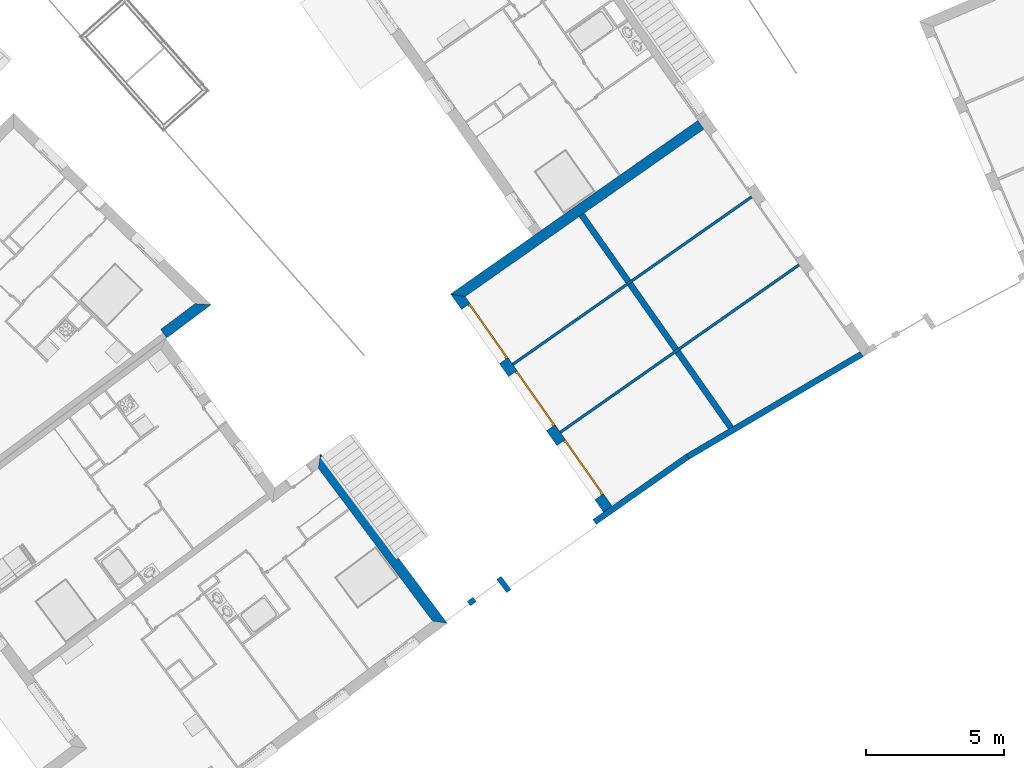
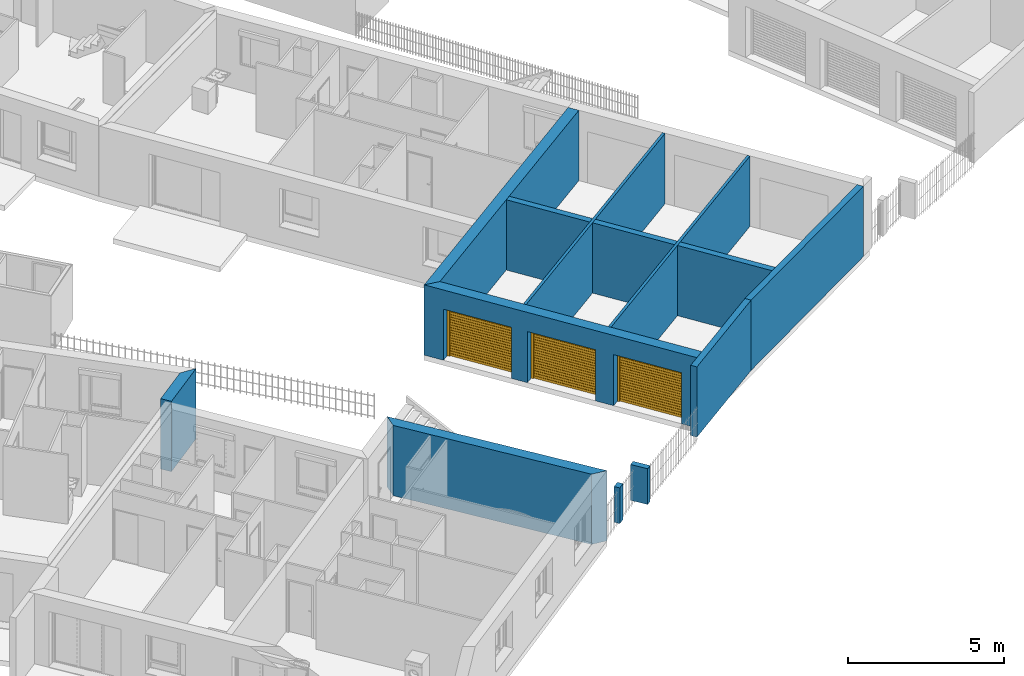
# One storey, part 26 of 195: 11 walls, 3 doors, 3 openings.
"""IFC2X3 building model written with IfcOpenShell, lengths in metres."""

import ifcopenshell
import ifcopenshell.guid

model = None  # the IFC model being written
_history = None  # IfcOwnerHistory: only IFC2X3 demands one
_inside = {}  # id of a spatial element -> (the spatial element, [elements in it])
_under = {}  # id of a project, library or spatial element -> (it, [spatial elements below it])
_declared = {}  # id of a project -> (the project, [libraries it declares])
_typed = {}  # id of a type object -> (the type object, [elements of that type])
_made_of = {}  # id of a material, layer set ... -> (it, [elements and type objects made of it])


def new_model(schema):
    """Start an empty IFC model of exactly this schema.

    Asked for "IFC4X3", IfcOpenShell would pick the latest addendum, in which some entities
    have other attributes; the version numbers below select the first issue.
    IFC2X3 requires an IfcOwnerHistory on every rooted entity: one is made here for all.
    """
    global model, _history
    if schema == "IFC4X3":
        model = ifcopenshell.file(schema_version=(4, 3, 0, 0))
    else:
        model = ifcopenshell.file(schema=schema)
    _inside.clear()
    _under.clear()
    _declared.clear()
    _typed.clear()
    _made_of.clear()
    _history = None
    if model.schema == "IFC2X3":
        org = make("IfcOrganization", Name="unknown")
        user = make(
            "IfcPersonAndOrganization",
            ThePerson=make("IfcPerson", FamilyName="unknown"),
            TheOrganization=org,
        )
        app = make(
            "IfcApplication",
            ApplicationDeveloper=org,
            Version="unknown",
            ApplicationFullName="unknown",
            ApplicationIdentifier="unknown",
        )
        _history = make(
            "IfcOwnerHistory",
            OwningUser=user,
            OwningApplication=app,
            ChangeAction="ADDED",
            CreationDate=0,
        )
    return model


def make(cls, **values):
    """One entity of the class cls with the attributes given. An attribute that is None is left unset."""
    return model.create_entity(
        cls, **{name: value for name, value in values.items() if value is not None}
    )


def entity(cls, *values):
    """Any entity or typed value of the class cls, its attributes in the order of the schema. None: left unset."""
    e = model.create_entity(cls)
    for i, value in enumerate(values):
        if value is not None:
            e[i] = value
    return e


def rooted(cls, **values):
    """An entity with a GlobalId (a new one), such as an element, a storey or a relation."""
    return make(cls, GlobalId=ifcopenshell.guid.new(), OwnerHistory=_history, **values)


def si_unit(unit_type, name, prefix=None):
    """IfcSIUnit, for example si_unit("LENGTHUNIT", "METRE", prefix="MILLI")."""
    return make("IfcSIUnit", UnitType=unit_type, Prefix=prefix, Name=name)


def converted_unit(unit_type, name, factor, base, dimensions=None, offset=None):
    """IfcConversionBasedUnit, such as the inch: factor (a typed value) times the base unit."""
    return make(
        "IfcConversionBasedUnit"
        if offset is None
        else "IfcConversionBasedUnitWithOffset",
        ConversionOffset=offset,
        Dimensions=None
        if dimensions is None
        else entity("IfcDimensionalExponents", *dimensions),
        UnitType=unit_type,
        Name=name,
        ConversionFactor=make(
            "IfcMeasureWithUnit", ValueComponent=factor, UnitComponent=base
        ),
    )


def derived_unit(unit_type, elements):
    """IfcDerivedUnit: a product of units, each with its exponent."""
    return make(
        "IfcDerivedUnit",
        Elements=[
            make("IfcDerivedUnitElement", Unit=unit, Exponent=power)
            for unit, power in elements
        ],
        UnitType=unit_type,
    )


def money_unit(currency):
    """IfcMonetaryUnit."""
    return make("IfcMonetaryUnit", Currency=currency)


def assignment(units):
    """IfcUnitAssignment: the units of a project."""
    return None if units is None else make("IfcUnitAssignment", Units=units)


def point(xyz):
    """IfcCartesianPoint."""
    return None if xyz is None else make("IfcCartesianPoint", Coordinates=xyz)


def direction(xyz):
    """IfcDirection."""
    return None if xyz is None else make("IfcDirection", DirectionRatios=xyz)


def frame(location, z_axis=None, x_axis=None):
    """IfcAxis2Placement3D, a coordinate frame: its origin and axes. An axis left out is left unset."""
    return make(
        "IfcAxis2Placement3D",
        Location=point(location),
        Axis=direction(z_axis),
        RefDirection=direction(x_axis),
    )


def frame_2d(location, x_axis=None):
    """IfcAxis2Placement2D, a coordinate frame in the plane: its origin and x axis."""
    return make(
        "IfcAxis2Placement2D", Location=point(location), RefDirection=direction(x_axis)
    )


def origin_with_axes():
    """The frame at (0, 0, 0) with the z axis (0, 0, 1) and the x axis (1, 0, 0) written out."""
    return frame((0.0, 0.0, 0.0), z_axis=(0.0, 0.0, 1.0), x_axis=(1.0, 0.0, 0.0))


def origin_2d_with_axis():
    """The frame at (0, 0) in the plane with the x axis (1, 0) written out."""
    return frame_2d((0.0, 0.0), x_axis=(1.0, 0.0))


def place(relative_to, where):
    """IfcLocalPlacement: puts the frame where relative to a parent placement (None: the world)."""
    return make(
        "IfcLocalPlacement", PlacementRelTo=relative_to, RelativePlacement=where
    )


def context(
    kind, dimensions, precision=None, world=None, true_north=None, identifier=None
):
    """IfcGeometricRepresentationContext, for example the 3D "Model" context."""
    return make(
        "IfcGeometricRepresentationContext",
        ContextIdentifier=identifier,
        ContextType=kind,
        CoordinateSpaceDimension=dimensions,
        Precision=precision,
        WorldCoordinateSystem=world,
        TrueNorth=true_north,
    )


def subcontext(parent, identifier, kind, view, scale=None):
    """IfcGeometricRepresentationSubContext, for example "Body" below "Model"."""
    return make(
        "IfcGeometricRepresentationSubContext",
        ContextIdentifier=identifier,
        ContextType=kind,
        ParentContext=parent,
        TargetScale=scale,
        TargetView=view,
    )


def project(units=None, contexts=None):
    """IfcProject with its units and contexts."""
    return rooted(
        "IfcProject",
        Name="project",
        RepresentationContexts=contexts,
        UnitsInContext=assignment(units),
    )


def spatial(cls, under=None, at=None, **own):
    """A site, building, storey or space (cls), placed at a placement, below another one or the project."""
    s = rooted(cls, ObjectPlacement=at, **own)
    if under is not None:
        _under.setdefault(under.id(), (under, []))[1].append(s)
    return s


def polyline(points):
    """IfcPolyline through the points."""
    return make("IfcPolyline", Points=[point(p) for p in points])


def profile(cls, at=None, kind="AREA", **sizes):
    """A parametric profile (cls). Its sizes go by their IFC names, for example OverallWidth=200.0."""
    return make(cls, ProfileType=kind, Position=at, **sizes)


def rectangle(**sizes):
    """IfcRectangleProfileDef."""
    return profile("IfcRectangleProfileDef", **sizes)


def outline(outer, holes=None, kind="AREA"):
    """IfcArbitraryClosedProfileDef: a profile drawn as a closed curve; with holes, ...WithVoids."""
    if holes is None:
        return make("IfcArbitraryClosedProfileDef", ProfileType=kind, OuterCurve=outer)
    return make(
        "IfcArbitraryProfileDefWithVoids",
        ProfileType=kind,
        OuterCurve=outer,
        InnerCurves=holes,
    )


def extrude(swept, where, along, depth):
    """IfcExtrudedAreaSolid: the profile swept, set in the frame where, extruded along a direction by depth."""
    return make(
        "IfcExtrudedAreaSolid",
        SweptArea=swept,
        Position=where,
        ExtrudedDirection=direction(along),
        Depth=depth,
    )


def faces_of(points, faces, orient=None, outer=None):
    """IfcFace entities. A face is a list of loops; a loop is a list of indices into points, from 0.

    orient and outer hold one flag for each loop. By default every Orientation is true, the
    first loop of a face is its IfcFaceOuterBound and the others are IfcFaceBound.
    """
    made = []
    for i, loops in enumerate(faces):
        bounds = []
        for j, loop in enumerate(loops):
            is_outer = j == 0 if outer is None else outer[i][j]
            bounds.append(
                make(
                    "IfcFaceOuterBound" if is_outer else "IfcFaceBound",
                    Bound=make("IfcPolyLoop", Polygon=[points[k] for k in loop]),
                    Orientation=True if orient is None else orient[i][j],
                )
            )
        made.append(make("IfcFace", Bounds=bounds))
    return made


def faceted_brep(points, faces, orient=None, outer=None, voids=None):
    """IfcFacetedBrep: a solid bounded by flat faces; with voids (closed shells), ...WithVoids."""
    shared = [point(p) for p in points]
    hull = make("IfcClosedShell", CfsFaces=faces_of(shared, faces, orient, outer))
    if voids is None:
        return make("IfcFacetedBrep", Outer=hull)
    return make(
        "IfcFacetedBrepWithVoids",
        Outer=hull,
        Voids=[
            make(cls, CfsFaces=faces_of(shared, fs, o, b)) for cls, fs, o, b in voids
        ],
    )


def shape(context_of_items, identifier, shape_type, items):
    """IfcShapeRepresentation: the items that make up one representation, for example the "Body"."""
    return make(
        "IfcShapeRepresentation",
        ContextOfItems=context_of_items,
        RepresentationIdentifier=identifier,
        RepresentationType=shape_type,
        Items=items,
    )


def source(mapping_origin, context_of_items, identifier, shape_type, items):
    """IfcRepresentationMap: a shape defined once, which mapped items show again and again."""
    return make(
        "IfcRepresentationMap",
        MappingOrigin=mapping_origin,
        MappedRepresentation=shape(context_of_items, identifier, shape_type, items),
    )


def transform(
    local_origin,
    x_axis=None,
    y_axis=None,
    z_axis=None,
    scale=None,
    scale2=None,
    scale3=None,
    uniform=True,
):
    """IfcCartesianTransformationOperator3D, or its non-uniform kind. x_axis, y_axis, z_axis: its Axis1, 2, 3."""
    if uniform:
        return make(
            "IfcCartesianTransformationOperator3D",
            Axis1=direction(x_axis),
            Axis2=direction(y_axis),
            LocalOrigin=point(local_origin),
            Scale=scale,
            Axis3=direction(z_axis),
        )
    return make(
        "IfcCartesianTransformationOperator3DnonUniform",
        Axis1=direction(x_axis),
        Axis2=direction(y_axis),
        LocalOrigin=point(local_origin),
        Scale=scale,
        Axis3=direction(z_axis),
        Scale2=scale2,
        Scale3=scale3,
    )


def mapped(mapping_source, mapping_target):
    """IfcMappedItem: shows the shape of a source again, moved by a transform."""
    return make(
        "IfcMappedItem", MappingSource=mapping_source, MappingTarget=mapping_target
    )


def material(Name=None, Category=None):
    """IfcMaterial."""
    return make("IfcMaterial", Name=Name, Category=Category)


def layer(
    of_material, thickness, ventilated=None, Name=None, Category=None, Priority=None
):
    """IfcMaterialLayer: one layer of a wall or slab, of a material (None: an air gap)."""
    return make(
        "IfcMaterialLayer",
        Material=of_material,
        LayerThickness=thickness,
        IsVentilated=ventilated,
        Name=Name,
        Category=Category,
        Priority=Priority,
    )


def layer_set(layers, Name=None):
    """IfcMaterialLayerSet."""
    return make("IfcMaterialLayerSet", MaterialLayers=layers, LayerSetName=Name)


def layer_usage(for_layer_set, set_direction, sense, offset, extent=None):
    """IfcMaterialLayerSetUsage: how a layer set lies in its element."""
    return make(
        "IfcMaterialLayerSetUsage",
        ForLayerSet=for_layer_set,
        LayerSetDirection=set_direction,
        DirectionSense=sense,
        OffsetFromReferenceLine=offset,
        ReferenceExtent=extent,
    )


def made_of(thing, what):
    """Note that an element or type object is made of a material, layer set ...; save() writes the relation."""
    if what is not None:
        _made_of.setdefault(what.id(), (what, []))[1].append(thing)
    return thing


def type_object(cls, material=None, **own):
    """A type object (cls), such as IfcWallType, which elements share."""
    return made_of(rooted(cls, **own), material)


def element(
    cls,
    number,
    at=None,
    inside=None,
    cuts=None,
    type_object=None,
    material=None,
    context=None,
    identifier="Body",
    shape_type=None,
    held_by="IfcProductDefinitionShape",
    body=None,
    shapes=None,
    **own,
):
    """One element of the class cls, such as IfcWall. Its Tag is "e" and its number.

    at: its placement. inside: the storey or other place that contains it. cuts: it is an
    opening in that element (IfcRelVoidsElement). A single representation is given by context,
    identifier, shape_type and body (its items); several are given by shapes. held_by: the class
    of the entity that holds the representations. save() writes the other relations.
    """
    e = rooted(cls, Tag="e%d" % number, ObjectPlacement=at, **own)
    if body is not None:
        shapes = [shape(context, identifier, shape_type, body)]
    if shapes is not None:
        e.Representation = make(held_by, Representations=shapes)
    if inside is not None:
        _inside.setdefault(inside.id(), (inside, []))[1].append(e)
    if cuts is not None:
        rooted(
            "IfcRelVoidsElement", RelatingBuildingElement=cuts, RelatedOpeningElement=e
        )
    if type_object is not None:
        _typed.setdefault(type_object.id(), (type_object, []))[1].append(e)
    return made_of(e, material)


def fill(opening, filler):
    """IfcRelFillsElement: the door or window that sits in an opening."""
    return rooted(
        "IfcRelFillsElement",
        RelatingOpeningElement=opening,
        RelatedBuildingElement=filler,
    )


def aggregate(whole, parts):
    """IfcRelAggregates: a whole, such as a stair, and the parts it consists of."""
    return rooted("IfcRelAggregates", RelatingObject=whole, RelatedObjects=parts)


def save(model, path):
    """Write the relations noted so far, then the file.

    IfcRelAggregates (storeys below a building ...), IfcRelContainedInSpatialStructure (elements
    in a storey), IfcRelDefinesByType, IfcRelAssociatesMaterial and IfcRelDeclares: one each for
    every whole, place, type object, material and project.
    """
    for whole, parts in _under.values():
        aggregate(whole, parts)
    for where, things in _inside.values():
        rooted(
            "IfcRelContainedInSpatialStructure",
            RelatedElements=things,
            RelatingStructure=where,
        )
    for kind, things in _typed.values():
        rooted("IfcRelDefinesByType", RelatedObjects=things, RelatingType=kind)
    for what, things in _made_of.values():
        rooted("IfcRelAssociatesMaterial", RelatedObjects=things, RelatingMaterial=what)
    for by, libraries in _declared.values():
        rooted("IfcRelDeclares", RelatingContext=by, RelatedDefinitions=libraries)
    model.write(path)


model = new_model("IFC2X3")

# Units and contexts
model_context = context("Model", 3, precision=1e-05, world=origin_with_axes(), true_north=direction((0.0, 1.0)))
body_context = subcontext(model_context, "Body", "Model", "MODEL_VIEW")
ifc_project = project(units=[si_unit("LENGTHUNIT", "METRE"), si_unit("AREAUNIT", "SQUARE_METRE"), si_unit("VOLUMEUNIT", "CUBIC_METRE"), converted_unit("PLANEANGLEUNIT", "DEGREE", entity("IfcPlaneAngleMeasure", 0.0174532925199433), si_unit("PLANEANGLEUNIT", "RADIAN"), dimensions=[0, 0, 0, 0, 0, 0, 0]), money_unit("CHF"), converted_unit("TIMEUNIT", "Year", entity("IfcTimeMeasure", 31557600.0), si_unit("TIMEUNIT", "SECOND"), dimensions=[0, 0, 1, 0, 0, 0, 0]), si_unit("MASSUNIT", "GRAM", prefix="KILO"), si_unit("THERMODYNAMICTEMPERATUREUNIT", "DEGREE_CELSIUS"), si_unit("LUMINOUSINTENSITYUNIT", "LUMEN"), si_unit("ENERGYUNIT", "JOULE", prefix="MEGA"), derived_unit("THERMALCONDUCTANCEUNIT", [(si_unit("POWERUNIT", "WATT"), 1), (si_unit("LENGTHUNIT", "METRE"), -1), (si_unit("THERMODYNAMICTEMPERATUREUNIT", "KELVIN"), -1)]), derived_unit("SPECIFICHEATCAPACITYUNIT", [(si_unit("ENERGYUNIT", "JOULE"), 1), (si_unit("MASSUNIT", "GRAM", prefix="KILO"), -1), (si_unit("THERMODYNAMICTEMPERATUREUNIT", "KELVIN"), -1)]), derived_unit("MASSDENSITYUNIT", [(si_unit("MASSUNIT", "GRAM", prefix="KILO"), 1), (si_unit("VOLUMEUNIT", "CUBIC_METRE"), -1)])], contexts=[model_context])

# Site, building, storey
site_placement = place(None, origin_with_axes())
site = spatial("IfcSite", under=ifc_project, at=site_placement, Name="Site", CompositionType="ELEMENT")
building_placement = place(site_placement, origin_with_axes())
building = spatial("IfcBuilding", under=site, at=building_placement, Name="Bâtiment", CompositionType="ELEMENT")
storey_placement = place(building_placement, origin_with_axes())
storey = spatial("IfcBuildingStorey", under=building, at=storey_placement, Name="rdc", CompositionType="ELEMENT", Elevation=0.0)

# Walls
ifc_material_1 = material(Name="Parpaing 312445824")
ifc_layer_1 = layer(ifc_material_1, 0.22, ventilated="UNKNOWN")
ifc_material_2 = material(Name="Isolant styromousse 301821074")
ifc_layer_2 = layer(ifc_material_2, 0.16, ventilated="UNKNOWN")
ifc_layer_set_1 = layer_set([ifc_layer_1, ifc_layer_2], Name="isol int 22+16 0836643197")
ifc_layer_usage_1 = layer_usage(ifc_layer_set_1, "AXIS2", "NEGATIVE", 0.0)
wall_type_1 = type_object("IfcWallType", Name="isol int 22+16 0836643197 380", PredefinedType="NOTDEFINED")
wall_1_placement = place(storey_placement, frame((9543.102010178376, -1073.884767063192, 57.7), z_axis=(0.0, 0.0, 1.0), x_axis=(0.5984464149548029, -0.8011628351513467, 0.0)))
element("IfcWallStandardCase", 1, at=wall_1_placement, inside=storey, type_object=wall_type_1, material=ifc_layer_usage_1, Name="Mur-114", context=body_context, shape_type="SweptSolid", body=[
    extrude(outline(polyline([(0.3800000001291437, -0.3799999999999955), (7.289914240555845, -0.3799999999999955), (7.66991424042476, 0.0), (0.0, 0.0), (0.3800000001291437, -0.3799999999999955)])), origin_with_axes(), (0.0, 0.0, 1.0), 2.75),
])
ifc_layer_usage_2 = layer_usage(ifc_layer_set_1, "AXIS2", "NEGATIVE", 0.0)
wall_2_placement = place(storey_placement, frame((9547.809377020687, -1068.11089280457, 57.7), z_axis=(0.0, 0.0, 1.0), x_axis=(0.8187432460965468, 0.5741598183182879, 0.0)))
element("IfcWallStandardCase", 2, at=wall_2_placement, inside=storey, type_object=wall_type_1, material=ifc_layer_usage_2, Name="Mur-113", context=body_context, shape_type="SweptSolid", body=[
    extrude(outline(polyline([(0.3800000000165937, -0.3799999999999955), (10.93448828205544, -0.3799999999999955), (10.9344882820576, 0.0), (0.0, 0.0), (0.3800000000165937, -0.3799999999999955)])), origin_with_axes(), (0.0, 0.0, 1.0), 2.75),
])

# Wall, openings, doors
ifc_layer_usage_3 = layer_usage(ifc_layer_set_1, "AXIS2", "NEGATIVE", 0.0)
wall_3_placement = place(storey_placement, frame((9553.470404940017, -1076.183433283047, 57.7), z_axis=(0.0, 0.0, 1.0), x_axis=(-0.5741598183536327, 0.8187432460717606, 0.0)))
wall_3 = element("IfcWallStandardCase", 3, at=wall_3_placement, inside=storey, type_object=wall_type_1, material=ifc_layer_usage_3, Name="Mur-113", context=body_context, shape_type="SweptSolid", body=[
    extrude(outline(polyline([(0.2200000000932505, -0.3799999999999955), (9.479672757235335, -0.3799999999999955), (9.859672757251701, 0.0), (0.2199999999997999, 0.0), (0.2200000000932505, -0.3799999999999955)])), origin_with_axes(), (0.0, 0.0, 1.0), 2.75),
])
opening_1_placement = place(wall_3_placement, frame((5.008506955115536, 0.0, 0.0), z_axis=(0.0, 0.0, 1.0), x_axis=(1.0, 0.0, 0.0)))
opening_1 = element("IfcOpeningElement", 4, at=opening_1_placement, cuts=wall_3, Name="Por-301", context=body_context, shape_type="SweptSolid", body=[
    extrude(rectangle(XDim=2.400000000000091, YDim=2.0, at=origin_2d_with_axis()), frame((0.0, -0.3799999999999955, 1.0), z_axis=(0.0, 1.0, 0.0), x_axis=(1.0, 0.0, 0.0)), (0.0, 0.0, -1.0), 0.38),
    extrude(rectangle(XDim=2.400000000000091, YDim=2.0, at=origin_2d_with_axis()), frame((0.0, -0.3800000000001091, 1.0), z_axis=(0.0, -1.0, 0.0), x_axis=(1.0, 0.0, 0.0)), (0.0, 0.0, -1.0), 0.38),
])
opening_2_placement = place(wall_3_placement, frame((1.959415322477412, 0.0, 0.0), z_axis=(0.0, 0.0, 1.0), x_axis=(1.0, 0.0, 0.0)))
opening_2 = element("IfcOpeningElement", 5, at=opening_2_placement, cuts=wall_3, Name="Por-301", context=body_context, shape_type="SweptSolid", body=[
    extrude(rectangle(XDim=2.399999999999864, YDim=2.0, at=origin_2d_with_axis()), frame((0.0, -0.3800000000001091, 1.0), z_axis=(0.0, 1.0, 0.0), x_axis=(1.0, 0.0, 0.0)), (0.0, 0.0, -1.0), 0.38),
    extrude(rectangle(XDim=2.399999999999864, YDim=2.0, at=origin_2d_with_axis()), frame((0.0, -0.3800000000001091, 1.0), z_axis=(0.0, -1.0, 0.0), x_axis=(1.0, 0.0, 0.0)), (0.0, 0.0, -1.0), 0.38),
])
opening_3_placement = place(wall_3_placement, frame((7.977047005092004, 0.0, 0.0), z_axis=(0.0, 0.0, 1.0), x_axis=(1.0, 0.0, 0.0)))
opening_3 = element("IfcOpeningElement", 6, at=opening_3_placement, cuts=wall_3, Name="Por-301", context=body_context, shape_type="SweptSolid", body=[
    extrude(rectangle(XDim=2.399999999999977, YDim=2.0, at=origin_2d_with_axis()), frame((0.0, -0.3800000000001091, 1.0), z_axis=(0.0, 1.0, 0.0), x_axis=(1.0, 0.0, 0.0)), (0.0, 0.0, -1.0), 0.38),
    extrude(rectangle(XDim=2.399999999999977, YDim=2.0, at=origin_2d_with_axis()), frame((0.0, -0.3800000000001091, 1.0), z_axis=(0.0, -1.0, 0.0), x_axis=(1.0, 0.0, 0.0)), (0.0, 0.0, -1.0), 0.38),
])
door_style = type_object("IfcDoorStyle", ConstructionType="NOTDEFINED", OperationType="NOTDEFINED", ParameterTakesPrecedence=False, Sizeable=False)
shared_shape = source(origin_with_axes(), body_context, "Body", "Brep", [
    faceted_brep([(-1.2, 0.0, 0.0), (-1.2, -0.09999999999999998, 0.0), (-1.2, -0.09999999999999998, 2.0), (-1.2, 0.0, 2.0), (-1.12, 0.0, 0.0), (-1.12, -0.09999999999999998, 0.0), (-1.12, -0.09999999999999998, 1.92), (1.12, -0.09999999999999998, 1.92), (1.12, -0.09999999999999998, 0.0), (1.2, -0.09999999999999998, 0.0), (1.2, -0.09999999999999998, 2.0), (1.2, 0.0, 2.0), (1.2, 0.0, 0.0), (1.12, 0.0, 0.0), (1.12, 0.0, 1.92), (-1.12, 0.0, 1.92)], [[[0, 1, 2, 3]], [[4, 5, 1, 0]], [[1, 5, 6, 7, 8, 9, 10, 2]], [[3, 2, 10, 11]], [[0, 3, 11, 12, 13, 14, 15, 4]], [[15, 6, 5, 4]], [[14, 7, 6, 15]], [[13, 8, 7, 14]], [[12, 9, 8, 13]], [[11, 10, 9, 12]]]),
    faceted_brep([(-1.12, -0.03999999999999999, 0.0), (-1.12, -0.05999999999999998, 0.0), (-1.12, -0.05999999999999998, 0.09157894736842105), (-1.12, -0.03999999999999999, 0.09157894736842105), (1.12, -0.03999999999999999, 0.0), (1.12, -0.05999999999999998, 0.0), (1.12, -0.05999999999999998, 0.09157894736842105), (1.12, -0.03999999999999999, 0.09157894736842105)], [[[0, 1, 2, 3]], [[4, 5, 1, 0]], [[1, 5, 6, 2]], [[3, 2, 6, 7]], [[0, 3, 7, 4]], [[7, 6, 5, 4]]]),
    faceted_brep([(-1.12, -0.03999999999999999, 0.101578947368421), (-1.12, -0.05999999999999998, 0.101578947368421), (-1.12, -0.05999999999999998, 0.1931578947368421), (-1.12, -0.03999999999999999, 0.1931578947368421), (1.12, -0.03999999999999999, 0.101578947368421), (1.12, -0.05999999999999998, 0.101578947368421), (1.12, -0.05999999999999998, 0.1931578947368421), (1.12, -0.03999999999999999, 0.1931578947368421)], [[[0, 1, 2, 3]], [[4, 5, 1, 0]], [[1, 5, 6, 2]], [[3, 2, 6, 7]], [[0, 3, 7, 4]], [[7, 6, 5, 4]]]),
    faceted_brep([(-1.12, -0.03999999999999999, 0.2031578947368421), (-1.12, -0.05999999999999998, 0.2031578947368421), (-1.12, -0.05999999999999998, 0.2947368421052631), (-1.12, -0.03999999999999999, 0.2947368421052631), (1.12, -0.03999999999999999, 0.2031578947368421), (1.12, -0.05999999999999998, 0.2031578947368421), (1.12, -0.05999999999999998, 0.2947368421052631), (1.12, -0.03999999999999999, 0.2947368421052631)], [[[0, 1, 2, 3]], [[4, 5, 1, 0]], [[1, 5, 6, 2]], [[3, 2, 6, 7]], [[0, 3, 7, 4]], [[7, 6, 5, 4]]]),
    faceted_brep([(-1.12, -0.03999999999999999, 0.3047368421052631), (-1.12, -0.05999999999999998, 0.3047368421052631), (-1.12, -0.05999999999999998, 0.3963157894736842), (-1.12, -0.03999999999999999, 0.3963157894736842), (1.12, -0.03999999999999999, 0.3047368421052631), (1.12, -0.05999999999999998, 0.3047368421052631), (1.12, -0.05999999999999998, 0.3963157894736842), (1.12, -0.03999999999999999, 0.3963157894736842)], [[[0, 1, 2, 3]], [[4, 5, 1, 0]], [[1, 5, 6, 2]], [[3, 2, 6, 7]], [[0, 3, 7, 4]], [[7, 6, 5, 4]]]),
    faceted_brep([(-1.12, -0.03999999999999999, 0.4063157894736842), (-1.12, -0.05999999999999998, 0.4063157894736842), (-1.12, -0.05999999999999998, 0.4978947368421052), (-1.12, -0.03999999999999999, 0.4978947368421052), (1.12, -0.03999999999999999, 0.4063157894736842), (1.12, -0.05999999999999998, 0.4063157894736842), (1.12, -0.05999999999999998, 0.4978947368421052), (1.12, -0.03999999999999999, 0.4978947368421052)], [[[0, 1, 2, 3]], [[4, 5, 1, 0]], [[1, 5, 6, 2]], [[3, 2, 6, 7]], [[0, 3, 7, 4]], [[7, 6, 5, 4]]]),
    faceted_brep([(-1.12, -0.03999999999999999, 0.5078947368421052), (-1.12, -0.05999999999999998, 0.5078947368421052), (-1.12, -0.05999999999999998, 0.5994736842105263), (-1.12, -0.03999999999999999, 0.5994736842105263), (1.12, -0.03999999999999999, 0.5078947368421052), (1.12, -0.05999999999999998, 0.5078947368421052), (1.12, -0.05999999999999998, 0.5994736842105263), (1.12, -0.03999999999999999, 0.5994736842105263)], [[[0, 1, 2, 3]], [[4, 5, 1, 0]], [[1, 5, 6, 2]], [[3, 2, 6, 7]], [[0, 3, 7, 4]], [[7, 6, 5, 4]]]),
    faceted_brep([(-1.12, -0.03999999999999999, 0.6094736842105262), (-1.12, -0.05999999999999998, 0.6094736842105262), (-1.12, -0.05999999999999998, 0.7010526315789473), (-1.12, -0.03999999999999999, 0.7010526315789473), (1.12, -0.03999999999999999, 0.6094736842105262), (1.12, -0.05999999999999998, 0.6094736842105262), (1.12, -0.05999999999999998, 0.7010526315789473), (1.12, -0.03999999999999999, 0.7010526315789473)], [[[0, 1, 2, 3]], [[4, 5, 1, 0]], [[1, 5, 6, 2]], [[3, 2, 6, 7]], [[0, 3, 7, 4]], [[7, 6, 5, 4]]]),
    faceted_brep([(-1.12, -0.03999999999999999, 0.7110526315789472), (-1.12, -0.05999999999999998, 0.7110526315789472), (-1.12, -0.05999999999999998, 0.8026315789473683), (-1.12, -0.03999999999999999, 0.8026315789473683), (1.12, -0.03999999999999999, 0.7110526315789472), (1.12, -0.05999999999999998, 0.7110526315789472), (1.12, -0.05999999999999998, 0.8026315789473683), (1.12, -0.03999999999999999, 0.8026315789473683)], [[[0, 1, 2, 3]], [[4, 5, 1, 0]], [[1, 5, 6, 2]], [[3, 2, 6, 7]], [[0, 3, 7, 4]], [[7, 6, 5, 4]]]),
    faceted_brep([(-1.12, -0.03999999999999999, 0.8126315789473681), (-1.12, -0.05999999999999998, 0.8126315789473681), (-1.12, -0.05999999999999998, 0.9042105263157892), (-1.12, -0.03999999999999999, 0.9042105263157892), (1.12, -0.03999999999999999, 0.8126315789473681), (1.12, -0.05999999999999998, 0.8126315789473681), (1.12, -0.05999999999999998, 0.9042105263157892), (1.12, -0.03999999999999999, 0.9042105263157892)], [[[0, 1, 2, 3]], [[4, 5, 1, 0]], [[1, 5, 6, 2]], [[3, 2, 6, 7]], [[0, 3, 7, 4]], [[7, 6, 5, 4]]]),
    faceted_brep([(-1.12, -0.03999999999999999, 0.9142105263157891), (-1.12, -0.05999999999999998, 0.9142105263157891), (-1.12, -0.05999999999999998, 1.00578947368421), (-1.12, -0.03999999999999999, 1.00578947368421), (1.12, -0.03999999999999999, 0.9142105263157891), (1.12, -0.05999999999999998, 0.9142105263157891), (1.12, -0.05999999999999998, 1.00578947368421), (1.12, -0.03999999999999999, 1.00578947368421)], [[[0, 1, 2, 3]], [[4, 5, 1, 0]], [[1, 5, 6, 2]], [[3, 2, 6, 7]], [[0, 3, 7, 4]], [[7, 6, 5, 4]]]),
    faceted_brep([(-1.12, -0.03999999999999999, 1.01578947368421), (-1.12, -0.05999999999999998, 1.01578947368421), (-1.12, -0.05999999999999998, 1.107368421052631), (-1.12, -0.03999999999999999, 1.107368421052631), (1.12, -0.03999999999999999, 1.01578947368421), (1.12, -0.05999999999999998, 1.01578947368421), (1.12, -0.05999999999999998, 1.107368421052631), (1.12, -0.03999999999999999, 1.107368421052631)], [[[0, 1, 2, 3]], [[4, 5, 1, 0]], [[1, 5, 6, 2]], [[3, 2, 6, 7]], [[0, 3, 7, 4]], [[7, 6, 5, 4]]]),
    faceted_brep([(-1.12, -0.03999999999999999, 1.117368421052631), (-1.12, -0.05999999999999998, 1.117368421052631), (-1.12, -0.05999999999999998, 1.208947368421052), (-1.12, -0.03999999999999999, 1.208947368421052), (1.12, -0.03999999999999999, 1.117368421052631), (1.12, -0.05999999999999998, 1.117368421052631), (1.12, -0.05999999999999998, 1.208947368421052), (1.12, -0.03999999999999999, 1.208947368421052)], [[[0, 1, 2, 3]], [[4, 5, 1, 0]], [[1, 5, 6, 2]], [[3, 2, 6, 7]], [[0, 3, 7, 4]], [[7, 6, 5, 4]]]),
    faceted_brep([(-1.12, -0.03999999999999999, 1.218947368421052), (-1.12, -0.05999999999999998, 1.218947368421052), (-1.12, -0.05999999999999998, 1.310526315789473), (-1.12, -0.03999999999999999, 1.310526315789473), (1.12, -0.03999999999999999, 1.218947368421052), (1.12, -0.05999999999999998, 1.218947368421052), (1.12, -0.05999999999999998, 1.310526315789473), (1.12, -0.03999999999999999, 1.310526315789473)], [[[0, 1, 2, 3]], [[4, 5, 1, 0]], [[1, 5, 6, 2]], [[3, 2, 6, 7]], [[0, 3, 7, 4]], [[7, 6, 5, 4]]]),
    faceted_brep([(-1.12, -0.03999999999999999, 1.320526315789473), (-1.12, -0.05999999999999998, 1.320526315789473), (-1.12, -0.05999999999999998, 1.412105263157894), (-1.12, -0.03999999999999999, 1.412105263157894), (1.12, -0.03999999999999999, 1.320526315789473), (1.12, -0.05999999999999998, 1.320526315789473), (1.12, -0.05999999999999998, 1.412105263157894), (1.12, -0.03999999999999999, 1.412105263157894)], [[[0, 1, 2, 3]], [[4, 5, 1, 0]], [[1, 5, 6, 2]], [[3, 2, 6, 7]], [[0, 3, 7, 4]], [[7, 6, 5, 4]]]),
    faceted_brep([(-1.12, -0.03999999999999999, 1.422105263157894), (-1.12, -0.05999999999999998, 1.422105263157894), (-1.12, -0.05999999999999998, 1.513684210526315), (-1.12, -0.03999999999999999, 1.513684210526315), (1.12, -0.03999999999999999, 1.422105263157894), (1.12, -0.05999999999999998, 1.422105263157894), (1.12, -0.05999999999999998, 1.513684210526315), (1.12, -0.03999999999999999, 1.513684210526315)], [[[0, 1, 2, 3]], [[4, 5, 1, 0]], [[1, 5, 6, 2]], [[3, 2, 6, 7]], [[0, 3, 7, 4]], [[7, 6, 5, 4]]]),
    faceted_brep([(-1.12, -0.03999999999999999, 1.523684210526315), (-1.12, -0.05999999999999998, 1.523684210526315), (-1.12, -0.05999999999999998, 1.615263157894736), (-1.12, -0.03999999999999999, 1.615263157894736), (1.12, -0.03999999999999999, 1.523684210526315), (1.12, -0.05999999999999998, 1.523684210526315), (1.12, -0.05999999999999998, 1.615263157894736), (1.12, -0.03999999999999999, 1.615263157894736)], [[[0, 1, 2, 3]], [[4, 5, 1, 0]], [[1, 5, 6, 2]], [[3, 2, 6, 7]], [[0, 3, 7, 4]], [[7, 6, 5, 4]]]),
    faceted_brep([(-1.12, -0.03999999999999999, 1.625263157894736), (-1.12, -0.05999999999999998, 1.625263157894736), (-1.12, -0.05999999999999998, 1.716842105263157), (-1.12, -0.03999999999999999, 1.716842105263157), (1.12, -0.03999999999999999, 1.625263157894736), (1.12, -0.05999999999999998, 1.625263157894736), (1.12, -0.05999999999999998, 1.716842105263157), (1.12, -0.03999999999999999, 1.716842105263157)], [[[0, 1, 2, 3]], [[4, 5, 1, 0]], [[1, 5, 6, 2]], [[3, 2, 6, 7]], [[0, 3, 7, 4]], [[7, 6, 5, 4]]]),
    faceted_brep([(-1.12, -0.03999999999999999, 1.726842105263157), (-1.12, -0.05999999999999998, 1.726842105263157), (-1.12, -0.05999999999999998, 1.818421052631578), (-1.12, -0.03999999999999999, 1.818421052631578), (1.12, -0.03999999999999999, 1.726842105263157), (1.12, -0.05999999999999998, 1.726842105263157), (1.12, -0.05999999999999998, 1.818421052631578), (1.12, -0.03999999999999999, 1.818421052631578)], [[[0, 1, 2, 3]], [[4, 5, 1, 0]], [[1, 5, 6, 2]], [[3, 2, 6, 7]], [[0, 3, 7, 4]], [[7, 6, 5, 4]]]),
    faceted_brep([(-1.12, -0.03999999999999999, 1.828421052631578), (-1.12, -0.05999999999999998, 1.828421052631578), (-1.12, -0.05999999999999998, 1.919999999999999), (-1.12, -0.03999999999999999, 1.919999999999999), (1.12, -0.03999999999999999, 1.828421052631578), (1.12, -0.05999999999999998, 1.828421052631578), (1.12, -0.05999999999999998, 1.919999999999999), (1.12, -0.03999999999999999, 1.919999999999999)], [[[0, 1, 2, 3]], [[4, 5, 1, 0]], [[1, 5, 6, 2]], [[3, 2, 6, 7]], [[0, 3, 7, 4]], [[7, 6, 5, 4]]]),
    faceted_brep([(1.12, -0.05999999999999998, 0.0), (1.12, -0.09999999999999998, 0.0), (-1.12, -0.09999999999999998, 0.0), (-1.12, -0.05999999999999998, 0.0), (1.12, -0.05999999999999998, 1.92), (1.12, -0.09999999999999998, 1.92), (-1.12, -0.09999999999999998, 1.92), (-1.12, -0.05999999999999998, 1.92)], [[[0, 1, 2, 3]], [[4, 5, 1, 0]], [[1, 5, 6, 2]], [[3, 2, 6, 7]], [[0, 3, 7, 4]], [[7, 6, 5, 4]]]),
])
door_1_placement = place(opening_3_placement, frame((-1.200000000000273, 0.0, 0.0), z_axis=(0.0, 0.0, 1.0), x_axis=(1.0, 0.0, 0.0)))
door_1 = element("IfcDoor", 7, at=door_1_placement, inside=storey, type_object=door_style, Name="Por-301", OverallHeight=2.0, OverallWidth=2.4, context=body_context, shape_type="MappedRepresentation", body=[
    mapped(shared_shape, transform((1.199999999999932, -0.2799999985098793, 0.0))),
])
fill(opening_3, door_1)
door_2_placement = place(opening_1_placement, frame((-1.199999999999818, 0.0, 0.0), z_axis=(0.0, 0.0, 1.0), x_axis=(1.0, 0.0, 0.0)))
door_2 = element("IfcDoor", 8, at=door_2_placement, inside=storey, type_object=door_style, Name="Por-301", OverallHeight=2.0, OverallWidth=2.4, context=body_context, shape_type="MappedRepresentation", body=[
    mapped(shared_shape, transform((1.199999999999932, -0.2799999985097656, 0.0))),
])
fill(opening_1, door_2)
door_3_placement = place(opening_2_placement, frame((-1.200000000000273, 0.0, 0.0), z_axis=(0.0, 0.0, 1.0), x_axis=(1.0, 0.0, 0.0)))
door_3 = element("IfcDoor", 9, at=door_3_placement, inside=storey, type_object=door_style, Name="Por-301", OverallHeight=2.0, OverallWidth=2.4, context=body_context, shape_type="MappedRepresentation", body=[
    mapped(shared_shape, transform((1.200000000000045, -0.2799999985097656, 0.0))),
])
fill(opening_2, door_3)

# Walls
ifc_layer_usage_4 = layer_usage(ifc_layer_set_1, "AXIS2", "NEGATIVE", 0.0)
wall_4_placement = place(storey_placement, frame((9539.15053135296, -1068.498546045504, 57.7), z_axis=(0.0, 0.0, 1.0), x_axis=(-0.8011628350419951, -0.5984464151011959, 0.0)))
element("IfcWallStandardCase", 10, at=wall_4_placement, inside=storey, type_object=wall_type_1, material=ifc_layer_usage_4, Name="Mur-116", context=body_context, shape_type="SweptSolid", body=[
    extrude(outline(polyline([(0.4460678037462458, -0.3799999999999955), (2.008501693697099, -0.3799999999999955), (2.008501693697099, 0.0), (0.0, 0.0), (0.4460678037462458, -0.3799999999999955)])), origin_with_axes(), (0.0, 0.0, 1.0), 2.75),
])
ifc_material_3 = material(Name="Parpaing 314940890")
ifc_layer_3 = layer(ifc_material_3, 0.22, ventilated="UNKNOWN")
ifc_layer_set_2 = layer_set([ifc_layer_3], Name="Beton  22 0836643197")
ifc_layer_usage_5 = layer_usage(ifc_layer_set_2, "AXIS2", "NEGATIVE", 0.0)
wall_type_2 = type_object("IfcWallType", Name="Beton  22 0836643197 220", PredefinedType="NOTDEFINED")
wall_5_placement = place(storey_placement, frame((9556.454375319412, -1074.090865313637, 57.7), z_axis=(0.0, 0.0, 1.0), x_axis=(-0.8187432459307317, -0.5741598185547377, 0.0)))
element("IfcWallStandardCase", 11, at=wall_5_placement, inside=storey, type_object=wall_type_2, material=ifc_layer_usage_5, Name="Mur-113", context=body_context, shape_type="SweptSolid", body=[
    extrude(outline(polyline([(-0.00871271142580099, -0.220000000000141), (4.114386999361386, -0.2200000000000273), (4.114386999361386, 0.0), (0.0, 0.0), (-0.00871271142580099, -0.220000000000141)])), origin_with_axes(), (0.0, 0.0, 1.0), 2.75),
])
ifc_layer_usage_6 = layer_usage(ifc_layer_set_2, "AXIS2", "NEGATIVE", 0.0)
wall_6_placement = place(storey_placement, frame((9563.08341973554, -1070.185282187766, 57.7), z_axis=(0.0, 0.0, 1.0), x_axis=(-0.8615849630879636, -0.5076133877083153, 0.0)))
element("IfcWallStandardCase", 12, at=wall_6_placement, inside=storey, type_object=wall_type_2, material=ifc_layer_usage_6, Name="Mur-113", context=body_context, shape_type="SweptSolid", body=[
    extrude(outline(polyline([(0.3986466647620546, -0.2200000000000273), (7.702723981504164, -0.2199999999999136), (7.69401127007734, 0.0), (0.3811938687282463, 0.0), (0.3986466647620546, -0.2200000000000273)])), origin_with_axes(), (0.0, 0.0, 1.0), 2.75),
])
ifc_layer_usage_7 = layer_usage(ifc_layer_set_2, "AXIS2", "NEGATIVE", 0.11)
wall_7_placement = place(storey_placement, frame((9558.083933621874, -1073.1307909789, 57.7), z_axis=(0.0, 0.0, 1.0), x_axis=(-0.5741598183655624, 0.8187432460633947, 0.0)))
element("IfcWallStandardCase", 13, at=wall_7_placement, inside=storey, type_object=wall_type_2, material=ifc_layer_usage_7, Name="Mur-113", context=body_context, shape_type="SweptSolid", body=[
    extrude(outline(polyline([(0.2119647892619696, -0.1100000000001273), (9.629245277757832, -0.1100000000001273), (9.629245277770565, 0.1099999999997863), (0.2294175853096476, 0.1099999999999), (0.2119647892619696, -0.1100000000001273)])), origin_with_axes(), (0.0, 0.0, 1.0), 2.75),
])
ifc_layer_4 = layer(ifc_material_3, 0.1, ventilated="UNKNOWN")
ifc_layer_set_3 = layer_set([ifc_layer_4], Name="Beton  10")
ifc_layer_usage_8 = layer_usage(ifc_layer_set_3, "AXIS2", "POSITIVE", -0.05)
wall_type_3 = type_object("IfcWallType", Name="Beton  10 100", PredefinedType="NOTDEFINED")
wall_8_placement = place(storey_placement, frame((9559.013698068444, -1064.381920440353, 57.7), z_axis=(0.0, 0.0, 1.0), x_axis=(-0.8187432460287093, -0.5741598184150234, 0.0)))
element("IfcWallStandardCase", 14, at=wall_8_placement, inside=storey, type_object=wall_type_3, material=ifc_layer_usage_8, Name="Mur-113", context=body_context, shape_type="SweptSolid", body=[
    extrude(outline(polyline([(0.3799999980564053, -0.04999999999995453), (10.93448827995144, -0.04999999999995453), (10.93448827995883, 0.05000000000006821), (0.3799999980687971, 0.04999999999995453), (0.3799999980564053, -0.04999999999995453)])), origin_with_axes(), (0.0, 0.0, 1.0), 2.75),
])
ifc_layer_usage_9 = layer_usage(ifc_layer_set_3, "AXIS2", "POSITIVE", -0.05)
wall_9_placement = place(storey_placement, frame((9560.736177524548, -1066.838150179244, 57.7), z_axis=(0.0, 0.0, 1.0), x_axis=(-0.8187432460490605, -0.5741598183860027, 0.0)))
element("IfcWallStandardCase", 15, at=wall_9_placement, inside=storey, type_object=wall_type_3, material=ifc_layer_usage_9, Name="Mur-113", context=body_context, shape_type="SweptSolid", body=[
    extrude(outline(polyline([(0.3799999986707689, -0.05000000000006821), (10.93448828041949, -0.05000000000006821), (10.93448828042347, 0.05000000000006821), (0.3799999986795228, 0.05000000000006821), (0.3799999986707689, -0.05000000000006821)])), origin_with_axes(), (0.0, 0.0, 1.0), 2.75),
])
ifc_material_4 = material(Name="MANQUANT")
ifc_layer_5 = layer(ifc_material_4, 0.2, ventilated="UNKNOWN")
ifc_layer_set_4 = layer_set([ifc_layer_5], Name="MANQUANT 0.2")
ifc_layer_usage_10 = layer_usage(ifc_layer_set_4, "AXIS2", "NEGATIVE", 0.0)
wall_type_4 = type_object("IfcWallType", Name="MANQUANT 200", PredefinedType="NOTDEFINED")
wall_10_placement = place(storey_placement, frame((9548.41207800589, -1079.242310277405, 57.7), z_axis=(0.0, 0.0, 1.0), x_axis=(0.8011628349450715, 0.5984464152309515, 0.0)))
element("IfcWallStandardCase", 16, at=wall_10_placement, inside=storey, type_object=wall_type_4, material=ifc_layer_usage_10, Name="Mur-151", context=body_context, shape_type="SweptSolid", body=[
    extrude(outline(polyline([(0.0, -0.2000000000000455), (0.2624142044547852, -0.2000000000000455), (0.2624142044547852, 0.0), (0.0, 0.0), (0.0, -0.2000000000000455)])), origin_with_axes(), (0.0, 0.0, 1.0), 1.4),
])
ifc_layer_usage_11 = layer_usage(ifc_layer_set_4, "AXIS2", "POSITIVE", 0.0)
wall_11_placement = place(storey_placement, frame((9550.000475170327, -1078.804131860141, 57.7), z_axis=(0.0, 0.0, 1.0), x_axis=(-0.5984464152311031, 0.8011628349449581, 0.0)))
element("IfcWallStandardCase", 17, at=wall_11_placement, inside=storey, type_object=wall_type_4, material=ifc_layer_usage_11, Name="Mur-151", context=body_context, shape_type="SweptSolid", body=[
    extrude(outline(polyline([(0.0, 0.0), (0.5995183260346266, 0.0), (0.5995183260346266, 0.1999999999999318), (0.0, 0.1999999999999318), (0.0, 0.0)])), origin_with_axes(), (0.0, 0.0, 1.0), 1.4),
])

save(model, "model.ifc")
